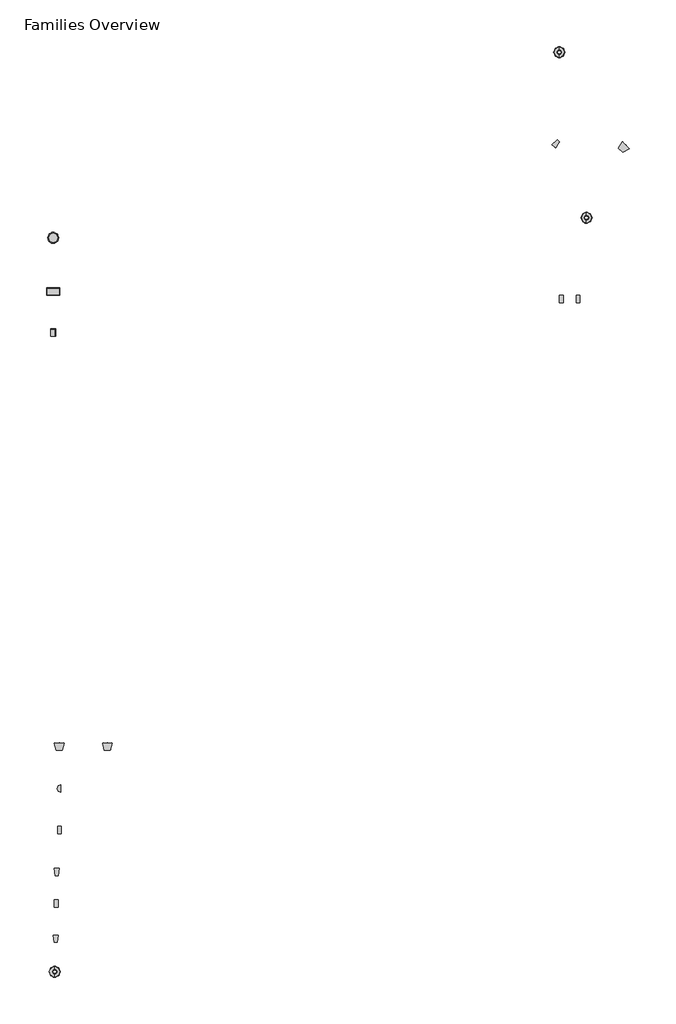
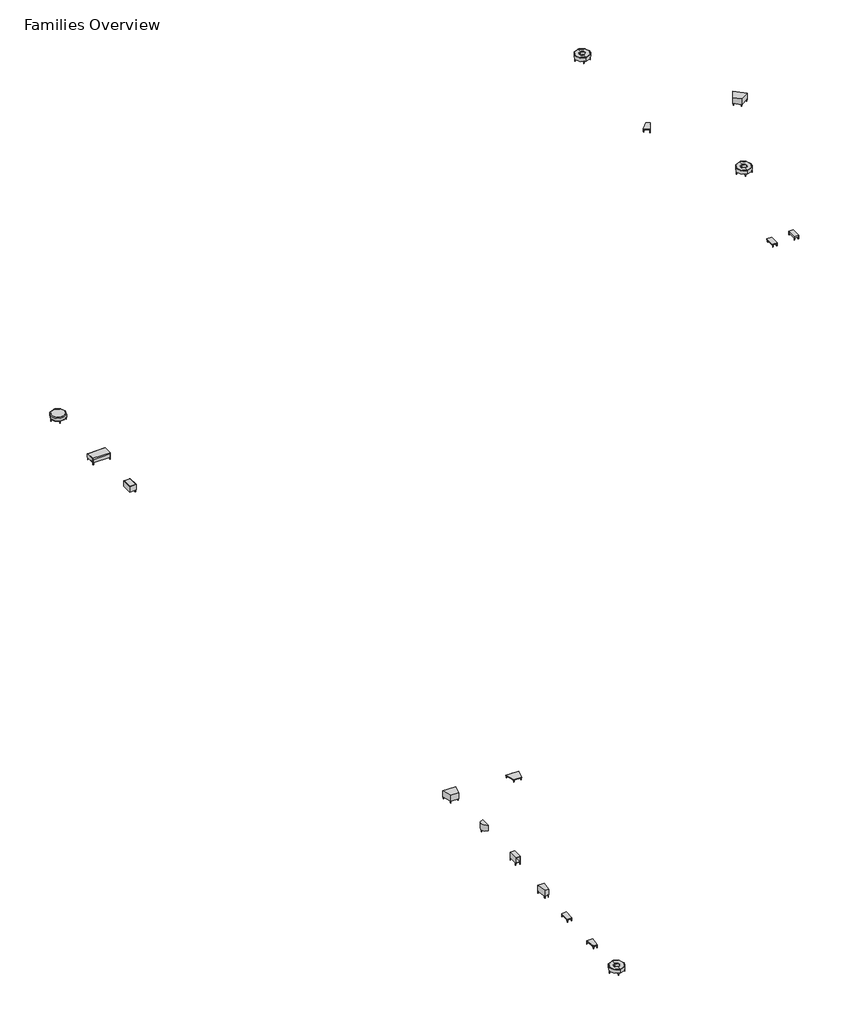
# One storey, incomplete: 17 furniture elements.
"""IFC4 building model written with IfcOpenShell, lengths in millimetres."""

from ifc_helpers import new_model, si_unit, origin, place, context, project, spatial, transform, mapped, element, save
from components import coalesse_am_seating_sofa_circa_roundottoman_ottoman_008e5c35, coalesse_am_seating_sofa_circa_straight_bench_58bbb06b, coalesse_am_seating_sofa_circa_straightarmrest_end_of_run_a4ea1394, coalesse_am_table_occasional_circa_30deg_high_dc8d9c8f, coalesse_am_table_occasional_circa_30deg_low_8c004b64, coalesse_am_table_occasional_circa_high_straight_high_e4ba7b22, coalesse_am_table_occasional_circa_high_wedge_high_wedge_dc0570ff, coalesse_am_table_occasional_circa_low_straight_low_straight_40700df2, coalesse_am_table_occasional_circa_low_straight_low_straight_29d6d99f, coalesse_am_table_occasional_circa_low_wedge_low_wedge_ee67b399, coalesse_am_table_occasional_circa_round_freestanding_a4bb9338, end_of_run_30ad734f

model = new_model("IFC4")

# Units and contexts
model_context = context("Model", 3, world=origin())
ifc_project = project(units=[si_unit("LENGTHUNIT", "METRE", prefix="MILLI")], contexts=[model_context])

# Site, building, storey
site = spatial("IfcSite", under=ifc_project)
building = spatial("IfcBuilding", under=site)
storey = spatial("IfcBuildingStorey", under=building, Name="Families Overview", Elevation=0.0)

# Furniture
placement = place(None, origin())
coalesse_am_seating_sofa_circa_roundottoman_ottoman_shape = coalesse_am_seating_sofa_circa_roundottoman_ottoman_008e5c35(model_context)
element("IfcFurniture", 1, ObjectType="Coalesse_AM_Seating_Sofa_Circa_RoundOttoman : Ottoman", at=placement, inside=storey, context=model_context, shape_type="MappedRepresentation", body=[
    mapped(coalesse_am_seating_sofa_circa_roundottoman_ottoman_shape, transform((137676.5537123, -57715.6851805, 0.0), x_axis=(1.0, 0.0, 0.0), y_axis=(0.0, 1.0, 0.0), z_axis=(0.0, 0.0, 1.0))),
])
coalesse_am_seating_sofa_circa_straight_bench_shape = coalesse_am_seating_sofa_circa_straight_bench_58bbb06b(model_context)
element("IfcFurniture", 2, ObjectType="Coalesse_AM_Seating_Sofa_Circa_Straight : Bench", at=placement, inside=storey, context=model_context, shape_type="MappedRepresentation", body=[
    mapped(coalesse_am_seating_sofa_circa_straight_bench_shape, transform((137041.5537123, -63202.0851805, 0.0), x_axis=(1.0, 0.0, 0.0), y_axis=(0.0, 1.0, 0.0), z_axis=(0.0, 0.0, 1.0))),
])
coalesse_am_seating_sofa_circa_straightarmrest_end_of_run_shape = coalesse_am_seating_sofa_circa_straightarmrest_end_of_run_a4ea1394(model_context)
element("IfcFurniture", 3, ObjectType="Coalesse_AM_Seating_Sofa_Circa_StraightArmrest : End of Run", at=placement, inside=storey, context=model_context, shape_type="MappedRepresentation", body=[
    mapped(coalesse_am_seating_sofa_circa_straightarmrest_end_of_run_shape, transform((137440.0162123, -66402.4851805, 0.0), x_axis=(1.0, 0.0, 0.0), y_axis=(0.0, 1.0, 0.0), z_axis=(0.0, 0.0, 1.0))),
])
coalesse_am_table_occasional_circa_30deg_high_shape = coalesse_am_table_occasional_circa_30deg_high_dc8d9c8f(model_context)
element("IfcFurniture", 4, ObjectType="Coalesse_AM_Table_Occasional_Circa_30deg : High", at=placement, inside=storey, context=model_context, shape_type="MappedRepresentation", body=[
    mapped(coalesse_am_table_occasional_circa_30deg_high_shape, transform((137793.2278736, -105862.0942945, 0.0), x_axis=(1.0, 0.0, 0.0), y_axis=(0.0, 1.0, 0.0), z_axis=(0.0, 0.0, 1.0))),
])
element("IfcFurniture", 5, ObjectType="Coalesse_AM_Table_Occasional_Circa_30deg : High", at=placement, inside=storey, context=model_context, shape_type="MappedRepresentation", body=[
    mapped(coalesse_am_table_occasional_circa_30deg_high_shape, transform((191582.7490995, -48965.349538, 0.0), x_axis=(0.7071048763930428, -0.707108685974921, 0.0), y_axis=(0.707108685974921, 0.7071048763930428, 0.0), z_axis=(0.0, 0.0, 1.0))),
])
coalesse_am_table_occasional_circa_30deg_low_shape = coalesse_am_table_occasional_circa_30deg_low_8c004b64(model_context)
element("IfcFurniture", 6, ObjectType="Coalesse_AM_Table_Occasional_Circa_30deg : Low", at=placement, inside=storey, context=model_context, shape_type="MappedRepresentation", body=[
    mapped(coalesse_am_table_occasional_circa_30deg_low_shape, transform((142375.6568447, -105862.0942945, 0.0), x_axis=(1.0, 0.0, 0.0), y_axis=(0.0, 1.0, 0.0), z_axis=(0.0, 0.0, 1.0))),
])
coalesse_am_table_occasional_circa_high_straight_high_shape = coalesse_am_table_occasional_circa_high_straight_high_e4ba7b22(model_context)
element("IfcFurniture", 7, ObjectType="Coalesse_AM_Table_Occasional_Circa_High_Straight : High Straight", at=placement, inside=storey, context=model_context, shape_type="MappedRepresentation", body=[
    mapped(coalesse_am_table_occasional_circa_high_straight_high_shape, transform((138098.0278736, -113786.8942945, 0.0), x_axis=(1.0, 0.0, 0.0), y_axis=(0.0, 1.0, 0.0), z_axis=(0.0, 0.0, 1.0))),
])
coalesse_am_table_occasional_circa_high_wedge_high_wedge_shape = coalesse_am_table_occasional_circa_high_wedge_high_wedge_dc0570ff(model_context)
element("IfcFurniture", 8, ObjectType="Coalesse_AM_Table_Occasional_Circa_High_Wedge : High Wedge", at=placement, inside=storey, context=model_context, shape_type="MappedRepresentation", body=[
    mapped(coalesse_am_table_occasional_circa_high_wedge_high_wedge_shape, transform((137793.2278736, -117800.0942945, 0.0), x_axis=(1.0, 0.0, 0.0), y_axis=(0.0, 1.0, 0.0), z_axis=(0.0, 0.0, 1.0))),
])
coalesse_am_table_occasional_circa_low_straight_low_straight_shape = coalesse_am_table_occasional_circa_low_straight_low_straight_40700df2(model_context)
element("IfcFurniture", 9, ObjectType="Coalesse_AM_Table_Occasional_Circa_Low_Straight : Low Straight", at=placement, inside=storey, context=model_context, shape_type="MappedRepresentation", body=[
    mapped(coalesse_am_table_occasional_circa_low_straight_low_straight_shape, transform((185952.0129327, -63198.9101805, 0.0), x_axis=(1.0, 0.0, 0.0), y_axis=(0.0, 1.0, 0.0), z_axis=(0.0, 0.0, 1.0))),
])
element("IfcFurniture", 10, ObjectType="Coalesse_AM_Table_Occasional_Circa_Low_Straight : Low Straight", at=placement, inside=storey, context=model_context, shape_type="MappedRepresentation", body=[
    mapped(coalesse_am_table_occasional_circa_low_straight_low_straight_shape, transform((187529.8116257, -63198.9101805, 0.0), x_axis=(1.0, 0.0, 0.0), y_axis=(0.0, 1.0, 0.0), z_axis=(0.0, 0.0, 1.0))),
])
coalesse_am_table_occasional_circa_low_straight_low_straight_2_shape = coalesse_am_table_occasional_circa_low_straight_low_straight_29d6d99f(model_context)
element("IfcFurniture", 11, ObjectType="Coalesse_AM_Table_Occasional_Circa_Low_Straight : Low Straight", at=placement, inside=storey, context=model_context, shape_type="MappedRepresentation", body=[
    mapped(coalesse_am_table_occasional_circa_low_straight_low_straight_2_shape, transform((137793.2278736, -120797.2942945, 0.0), x_axis=(1.0, 0.0, 0.0), y_axis=(0.0, 1.0, 0.0), z_axis=(0.0, 0.0, 1.0))),
])
coalesse_am_table_occasional_circa_low_wedge_low_wedge_shape = coalesse_am_table_occasional_circa_low_wedge_low_wedge_ee67b399(model_context)
element("IfcFurniture", 12, ObjectType="Coalesse_AM_Table_Occasional_Circa_Low_Wedge : Low Wedge", at=placement, inside=storey, context=model_context, shape_type="MappedRepresentation", body=[
    mapped(coalesse_am_table_occasional_circa_low_wedge_low_wedge_shape, transform((137666.5960681, -124150.0942945, 0.0), x_axis=(1.0, 0.0, 0.0), y_axis=(0.0, 1.0, 0.0), z_axis=(0.0, 0.0, 1.0))),
])
element("IfcFurniture", 13, ObjectType="Coalesse_AM_Table_Occasional_Circa_Low_Wedge : Low Wedge", at=placement, inside=storey, context=model_context, shape_type="MappedRepresentation", body=[
    mapped(coalesse_am_table_occasional_circa_low_wedge_low_wedge_shape, transform((184540.4444691, -48376.597364, 0.0), x_axis=(-0.7934617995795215, 0.6086200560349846, 0.0), y_axis=(-0.6086200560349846, -0.7934617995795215, 0.0), z_axis=(0.0, 0.0, 1.0))),
])
coalesse_am_table_occasional_circa_round_freestanding_shape = coalesse_am_table_occasional_circa_round_freestanding_a4bb9338(model_context)
element("IfcFurniture", 14, ObjectType="Coalesse_AM_Table_Occasional_Circa_Round : Freestanding", at=placement, inside=storey, context=model_context, shape_type="MappedRepresentation", body=[
    mapped(coalesse_am_table_occasional_circa_round_freestanding_shape, transform((137833.0082885, -127655.2942945, 0.0), x_axis=(1.0, 0.0, 0.0), y_axis=(0.0, 1.0, 0.0), z_axis=(0.0, 0.0, 1.0))),
])
element("IfcFurniture", 15, ObjectType="Coalesse_AM_Table_Occasional_Circa_Round : Freestanding", at=placement, inside=storey, context=model_context, shape_type="MappedRepresentation", body=[
    mapped(coalesse_am_table_occasional_circa_round_freestanding_shape, transform((188526.1916162, -55823.971849, 0.0), x_axis=(1.0, 0.0, 0.0), y_axis=(0.0, 1.0, 0.0), z_axis=(0.0, 0.0, 1.0))),
])
element("IfcFurniture", 16, ObjectType="Coalesse_AM_Table_Occasional_Circa_Round : Freestanding", at=placement, inside=storey, context=model_context, shape_type="MappedRepresentation", body=[
    mapped(coalesse_am_table_occasional_circa_round_freestanding_shape, transform((185918.2916821, -40036.3830209, 0.0), x_axis=(1.0, 0.0, 0.0), y_axis=(0.0, 1.0, 0.0), z_axis=(0.0, 0.0, 1.0))),
])
end_of_run_shape = end_of_run_30ad734f(model_context)
element("IfcFurniture", 17, ObjectType="Coalesse_AM_Table_Occasional_Circa_EndofRun : End of Run", at=placement, inside=storey, context=model_context, shape_type="MappedRepresentation", body=[
    mapped(end_of_run_shape, transform((137074.9920296, -109844.583095, 0.0), x_axis=(-1.0, 0.0, 0.0), y_axis=(0.0, -1.0, 0.0), z_axis=(0.0, 0.0, 1.0))),
])

save(model, "model.ifc")
